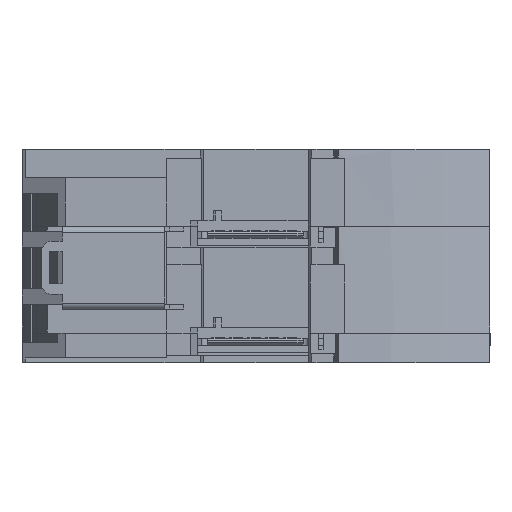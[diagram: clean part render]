
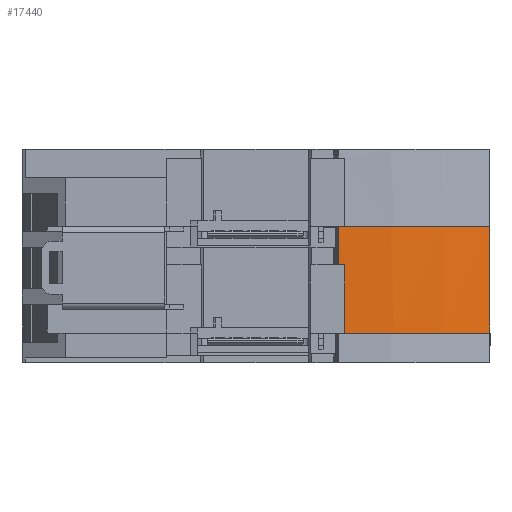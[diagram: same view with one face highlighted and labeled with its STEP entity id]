
A CAD part, front view. The second image highlights one B-rep face of the part: STEP entity #17440.
In plain terms, the highlighted cylindrical face has radius 80 mm (diameter 160 mm), a partial arc.
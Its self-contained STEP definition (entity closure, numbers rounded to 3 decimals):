
#16860=CARTESIAN_POINT('',(10.293,65.8,
-14.585));
#16870=DIRECTION('',(1.,0.,0.));
#16880=DIRECTION('',(0.,0.,-1.));
#16890=AXIS2_PLACEMENT_3D('',#16860,#16870,#16880);
#16900=CYLINDRICAL_SURFACE('',#16890,80.);
#16910=CARTESIAN_POINT('',(10.293,-5.642,
-50.585));
#16920=DIRECTION('',(1.,0.,0.));
#16930=VECTOR('',#16920,1.);
#16940=LINE('',#16910,#16930);
#16950=CARTESIAN_POINT('',(-7.257,-5.642,
-50.585));
#16960=VERTEX_POINT('',#16950);
#16970=CARTESIAN_POINT('',(15.343,-5.642,
-50.585));
#16980=VERTEX_POINT('',#16970);
#16990=EDGE_CURVE('',#16960,#16980,#16940,.T.);
#17000=ORIENTED_EDGE('',*,*,#16990,.T.);
#17010=CARTESIAN_POINT('',(-7.257,65.8,
-14.585));
#17020=DIRECTION('',(1.,0.,0.));
#17030=DIRECTION('',(0.,0.,-1.));
#17040=AXIS2_PLACEMENT_3D('',#17010,#17020,#17030);
#17050=CIRCLE('',#17040,80.);
#17060=CARTESIAN_POINT('',(-7.257,-14.031,
-19.785));
#17070=VERTEX_POINT('',#17060);
#17080=EDGE_CURVE('',#17070,#16960,#17050,.T.);
#17090=ORIENTED_EDGE('',*,*,#17080,.T.);
#17100=CARTESIAN_POINT('',(10.293,-14.031,
-19.785));
#17110=DIRECTION('',(1.,0.,0.));
#17120=VECTOR('',#17110,1.);
#17130=LINE('',#17100,#17120);
#17140=CARTESIAN_POINT('',(7.143,-14.031,
-19.785));
#17150=VERTEX_POINT('',#17140);
#17160=EDGE_CURVE('',#17070,#17150,#17130,.T.);
#17170=ORIENTED_EDGE('',*,*,#17160,.F.);
#17180=CARTESIAN_POINT('',(7.143,65.8,
-14.585));
#17190=DIRECTION('',(1.,0.,0.));
#17200=DIRECTION('',(0.,0.,-1.));
#17210=AXIS2_PLACEMENT_3D('',#17180,#17190,#17200);
#17220=CIRCLE('',#17210,80.);
#17230=CARTESIAN_POINT('',(7.143,-14.105,
-18.49));
#17240=VERTEX_POINT('',#17230);
#17250=EDGE_CURVE('',#17240,#17150,#17220,.T.);
#17260=ORIENTED_EDGE('',*,*,#17250,.T.);
#17270=CARTESIAN_POINT('',(10.293,-14.105,
-18.49));
#17280=DIRECTION('',(1.,0.,0.));
#17290=VECTOR('',#17280,1.);
#17300=LINE('',#17270,#17290);
#17310=CARTESIAN_POINT('',(15.343,-14.105,
-18.49));
#17320=VERTEX_POINT('',#17310);
#17330=EDGE_CURVE('',#17240,#17320,#17300,.T.);
#17340=ORIENTED_EDGE('',*,*,#17330,.F.);
#17350=CARTESIAN_POINT('',(15.343,65.8,
-14.585));
#17360=DIRECTION('',(1.,0.,0.));
#17370=DIRECTION('',(0.,0.,-1.));
#17380=AXIS2_PLACEMENT_3D('',#17350,#17360,#17370);
#17390=CIRCLE('',#17380,80.);
#17400=EDGE_CURVE('',#17320,#16980,#17390,.T.);
#17410=ORIENTED_EDGE('',*,*,#17400,.F.);
#17420=EDGE_LOOP('',(#17410,#17340,#17260,#17170,#17090,#17000));
#17430=FACE_OUTER_BOUND('',#17420,.T.);
#17440=ADVANCED_FACE('',(#17430),#16900,.T.);
